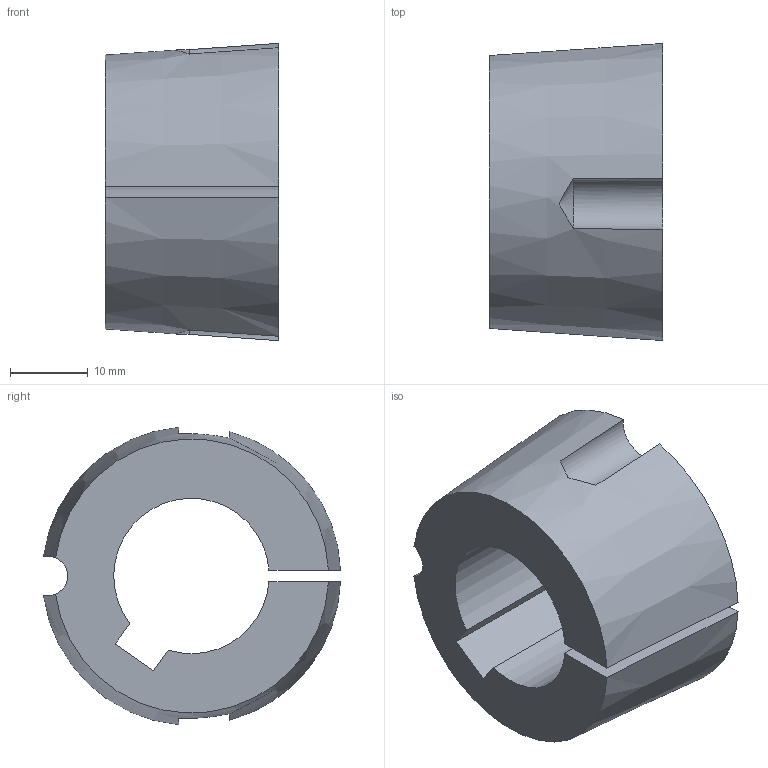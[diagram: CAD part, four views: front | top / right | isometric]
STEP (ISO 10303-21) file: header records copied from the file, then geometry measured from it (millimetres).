
FILE_DESCRIPTION( ( 'STEP AP203' ), '1' );
FILE_NAME( 'D:/export/antriebselemente/spannbuchsen_und_spannsaetze/taper-spannbuchsen_1008_bis_5050/taper-spannbuchsen_62250220Isometric_28.stp', '2018-12-11T11:10:59', ( '' ), ( '' ), ' ', 'PARTsolutions', ' ' );
FILE_SCHEMA( ( 'CONFIG_CONTROL_DESIGN' ) );
Length unit declared in the file: millimetre
Products named in the file (1): _taper-spannbuchsen_62250220
Bounding box: 22.3 x 38.22 x 38.26 mm (x, y, z)
Volume: 15447.5 mm3; surface area: 5990.7 mm2
Topology: 1 solids, 1 shells, 16 faces, 42 edges, 28 vertices
Faces by surface type: plane 7, cylinder 5, cone 4
Entity records: 602 total; most frequent: CARTESIAN_POINT 163, ORIENTED_EDGE 84, DIRECTION 82, EDGE_CURVE 42, AXIS2_PLACEMENT_3D 33, VERTEX_POINT 28, ADVANCED_FACE 16, FACE_OUTER_BOUND 16
